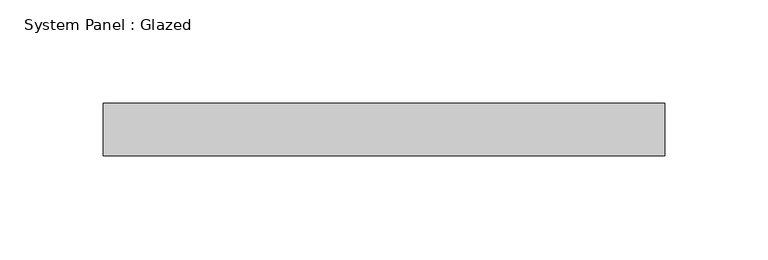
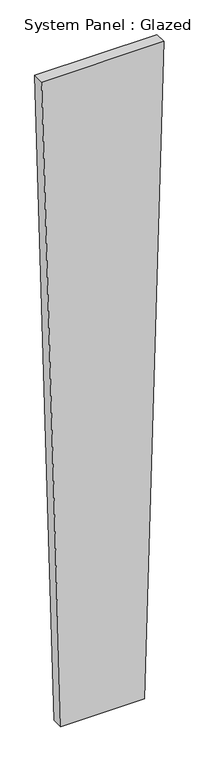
"""IFC4 building model written with IfcOpenShell, lengths in millimetres: plate geometry, System Panel : Glazed."""

from ifc_helpers import new_model, si_unit, frame, origin, place, context, project, spatial, polyline, outline, extrude, source, transform, mapped, element, save


def system_panel_glazed_dce3fa4b(model_context):
    return source(origin(), model_context, "Body", "SweptSolid", [
        extrude(outline(polyline([(0.0, -92.6357122), (0.0, 92.6357122), (1523.3930228, 135.6438304), (1523.3930228, -135.6438304), (0.0, -92.6357122)])), frame((0.0, 19.05, 0.0), z_axis=(0.0, 1.0, 0.0), x_axis=(0.0, 0.0, 1.0)), (0.0, 0.0, 1.0), 25.4),
    ])


if __name__ == "__main__":
    model = new_model("IFC4")
    model_context = context("Model", 3, world=origin())
    ifc_project = project(units=[si_unit("LENGTHUNIT", "METRE", prefix="MILLI")], contexts=[model_context])
    site = spatial("IfcSite", under=ifc_project)
    building = spatial("IfcBuilding", under=site)
    placement = place(None, origin())
    system_panel_glazed_shape = system_panel_glazed_dce3fa4b(model_context)
    element("IfcPlate", 1, ObjectType="System Panel : Glazed", at=placement, inside=building, context=model_context, shape_type="MappedRepresentation", body=[
        mapped(system_panel_glazed_shape, transform((0.0, 0.0, 0.0), x_axis=(1.0, 0.0, 0.0), y_axis=(0.0, 1.0, 0.0), z_axis=(0.0, 0.0, 1.0))),
    ])
    save(model, "model.ifc")
